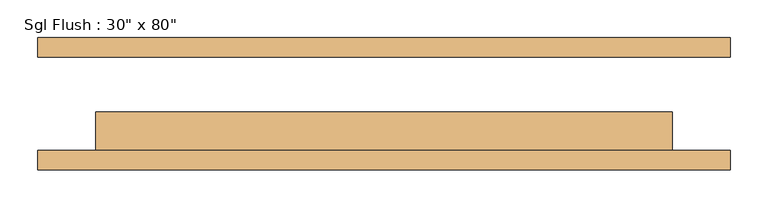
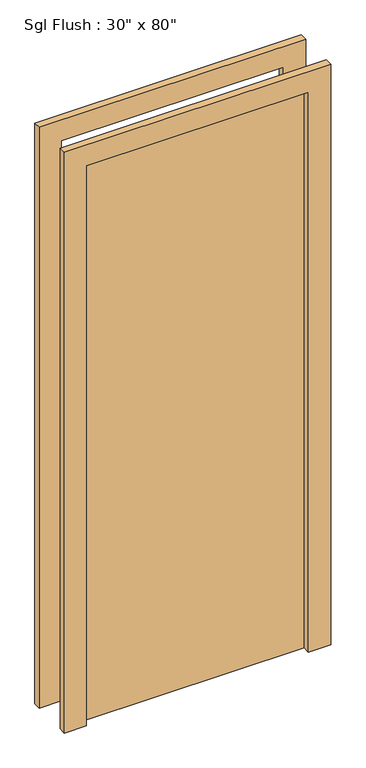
"""IFC4 building model written with IfcOpenShell, lengths in millimetres: door geometry."""

from ifc_helpers import new_model, si_unit, frame, origin, origin_with_axes, place, context, project, spatial, polyline, outline, extrude, source, transform, mapped, element, save


def door_91cbdfe0(model_context):
    return source(origin(), model_context, "Body", "SweptSolid", [
        extrude(outline(polyline([(2108.2, -457.2), (0.0, -457.2), (0.0, -381.0), (2032.0, -381.0), (2032.0, 381.0), (0.0, 381.0), (0.0, 457.2), (2108.2, 457.2), (2108.2, -457.2)])), frame((0.0, -87.3125, 0.0), z_axis=(0.0, 1.0, 0.0), x_axis=(0.0, 0.0, 1.0)), (0.0, 0.0, 1.0), 25.4),
        extrude(outline(polyline([(2108.2, 457.2), (2108.2, -457.2), (0.0, -457.2), (0.0, -381.0), (2032.0, -381.0), (2032.0, 381.0), (0.0, 381.0), (0.0, 457.2), (2108.2, 457.2)])), frame((0.0, 61.9125, 0.0), z_axis=(0.0, 1.0, 0.0), x_axis=(0.0, 0.0, 1.0)), (0.0, 0.0, 1.0), 25.4),
        extrude(outline(polyline([(381.0, -11.1125), (381.0, -61.9125), (-381.0, -61.9125), (-381.0, -11.1125), (381.0, -11.1125)])), origin_with_axes(), (0.0, 0.0, 1.0), 2032.0),
    ])


if __name__ == "__main__":
    model = new_model("IFC4")
    model_context = context("Model", 3, world=origin())
    ifc_project = project(units=[si_unit("LENGTHUNIT", "METRE", prefix="MILLI")], contexts=[model_context])
    site = spatial("IfcSite", under=ifc_project)
    building = spatial("IfcBuilding", under=site)
    placement = place(None, origin())
    door_shape = door_91cbdfe0(model_context)
    element("IfcDoor", 1, ObjectType="Sgl Flush : 30\" x 80\"", at=placement, inside=building, context=model_context, shape_type="MappedRepresentation", body=[
        mapped(door_shape, transform((0.0, 0.0, 0.0), x_axis=(1.0, 0.0, 0.0), y_axis=(0.0, 1.0, 0.0), z_axis=(0.0, 0.0, 1.0))),
    ])
    save(model, "model.ifc")
